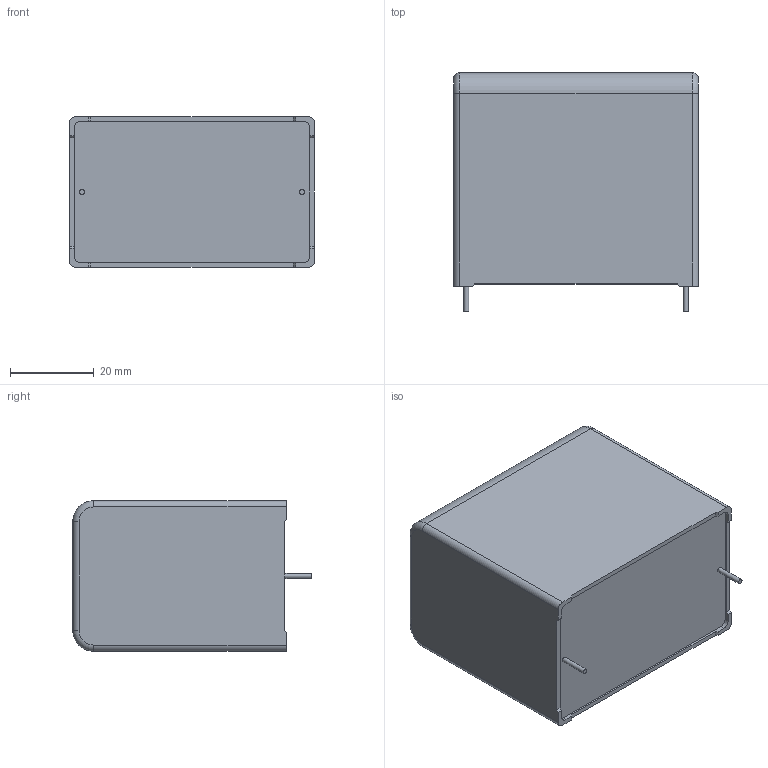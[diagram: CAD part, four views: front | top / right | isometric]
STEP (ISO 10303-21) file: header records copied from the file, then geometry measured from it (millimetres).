
FILE_DESCRIPTION (( 'STEP AP203' ), '1' );
FILE_NAME ('MKP1847H62031+Y2.step', '2018-01-17T10:52:28', ( 'work' ), ( 'Hewlett-Packard Company' ), 'SwSTEP 2.0', 'SolidWorks 2017', '' );
FILE_SCHEMA (( 'CONFIG_CONTROL_DESIGN' ));
Length unit declared in the file: millimetre
Products named in the file (1): MKP1847H62031+Y2
Bounding box: 58.5 x 57 x 36 mm (x, y, z)
Volume: 104681.9 mm3; surface area: 13484.7 mm2
Topology: 1 solids, 1 shells, 114 faces, 303 edges, 200 vertices
Faces by surface type: plane 80, bspline 16, cylinder 14, torus 4
Full cylindrical faces by diameter (mm): 1.2 x2
Entity records: 4252 total; most frequent: CARTESIAN_POINT 1436, ORIENTED_EDGE 598, DIRECTION 497, EDGE_CURVE 299, LINE 235, VECTOR 235, VERTEX_POINT 198, AXIS2_PLACEMENT_3D 131
